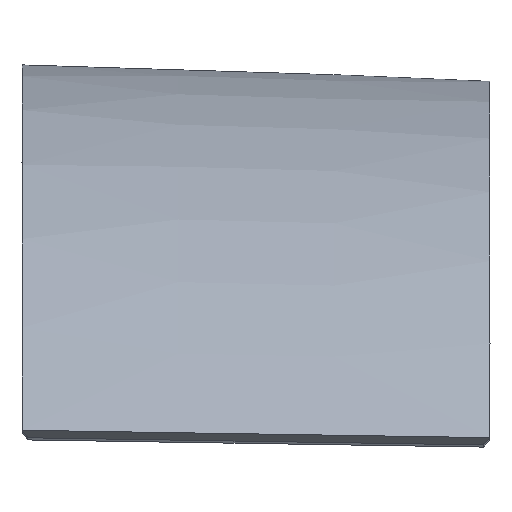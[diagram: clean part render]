
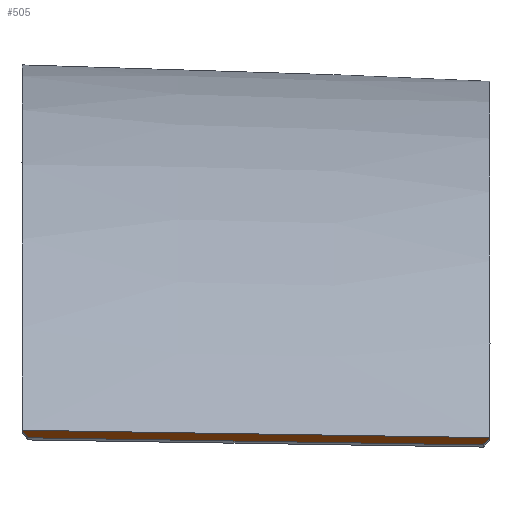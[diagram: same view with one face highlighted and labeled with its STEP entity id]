
A CAD part, top view. The second image highlights one B-rep face of the part: STEP entity #505.
In plain terms, the highlighted free-form (B-spline) face has degree [1, 3] with [2, 4] control points.
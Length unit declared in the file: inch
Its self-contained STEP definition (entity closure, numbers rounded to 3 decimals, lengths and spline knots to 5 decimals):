
#33 = CARTESIAN_POINT ( 'NONE',  ( -23.90625, -101.5709, 31.79514 ) ) ;
#70 = EDGE_CURVE ( 'NONE', #145, #316, #2278, .T. ) ;
#71 = CARTESIAN_POINT ( 'NONE',  ( -0.34176, -101.94102, 31.15406 ) ) ;
#145 = VERTEX_POINT ( 'NONE', #1351 ) ;
#158 = VERTEX_POINT ( 'NONE', #614 ) ;
#168 = CARTESIAN_POINT ( 'NONE',  ( -0.34176, -101.94102, 31.15406 ) ) ;
#171 = CARTESIAN_POINT ( 'NONE',  ( -7.96603, -101.44497, 32.01068 ) ) ;
#176 = CARTESIAN_POINT ( 'NONE',  ( -23.59574, -101.57578, 31.78669 ) ) ;
#182 = CARTESIAN_POINT ( 'NONE',  ( -23.59574, -101.57578, 31.78669 ) ) ;
#246 = EDGE_CURVE ( 'NONE', #1870, #158, #2193, .T. ) ;
#316 = VERTEX_POINT ( 'NONE', #1674 ) ;
#369 = ORIENTED_EDGE ( 'NONE', *, *, #246, .T. ) ;
#381 = CARTESIAN_POINT ( 'NONE',  ( -15.92437, -101.31997, 32.22719 ) ) ;
#414 = CARTESIAN_POINT ( 'NONE',  ( -8.09309, -101.81927, 31.36494 ) ) ;
#448 = FACE_OUTER_BOUND ( 'NONE', #2444, .T. ) ;
#505 = ADVANCED_FACE ( 'NONE', ( #448 ), #1548, .T. ) ;
#518 = B_SPLINE_CURVE_WITH_KNOTS ( 'NONE', 3,
 ( #71, #832, #1775, #1178 ),
 .UNSPECIFIED., .F., .F.,
 ( 4, 4 ),
 ( 0., 1. ),
 .UNSPECIFIED. ) ;
#532 = ORIENTED_EDGE ( 'NONE', *, *, #616, .T. ) ;
#560 = CARTESIAN_POINT ( 'NONE',  ( -23.8827, -101.19498, 32.4437 ) ) ;
#612 = CARTESIAN_POINT ( 'NONE',  ( -7.98958, -101.8209, 31.36212 ) ) ;
#614 = CARTESIAN_POINT ( 'NONE',  ( -0.34176, -101.94102, 31.15406 ) ) ;
#616 = EDGE_CURVE ( 'NONE', #158, #316, #518, .T. ) ;
#726 = CARTESIAN_POINT ( 'NONE',  ( -23.6914, -101.44885, 32.00569 ) ) ;
#802 = CARTESIAN_POINT ( 'NONE',  ( -15.94792, -101.6959, 31.57863 ) ) ;
#832 = CARTESIAN_POINT ( 'NONE',  ( -0.23041, -101.81734, 31.36743 ) ) ;
#906 = CARTESIAN_POINT ( 'NONE',  ( -23.78705, -101.32191, 32.2247 ) ) ;
#1011 = CARTESIAN_POINT ( 'NONE',  ( -23.8827, -101.19498, 32.4437 ) ) ;
#1038 = CARTESIAN_POINT ( 'NONE',  ( -0.0077, -101.56996, 31.79416 ) ) ;
#1178 = CARTESIAN_POINT ( 'NONE',  ( -0.0077, -101.56996, 31.79416 ) ) ;
#1188 = CARTESIAN_POINT ( 'NONE',  ( -7.96603, -101.44497, 32.01068 ) ) ;
#1194 = B_SPLINE_CURVE_WITH_KNOTS ( 'NONE', 3,
 ( #2399, #906, #726, #176 ),
 .UNSPECIFIED., .F., .F.,
 ( 4, 4 ),
 ( 0., 1. ),
 .UNSPECIFIED. ) ;
#1293 = CARTESIAN_POINT ( 'NONE',  ( -23.59574, -101.57578, 31.78669 ) ) ;
#1330 = CARTESIAN_POINT ( 'NONE',  ( -0.0077, -101.56996, 31.79416 ) ) ;
#1351 = CARTESIAN_POINT ( 'NONE',  ( -23.8827, -101.19498, 32.4437 ) ) ;
#1548 = B_SPLINE_SURFACE_WITH_KNOTS ( 'NONE', 1, 3, ( 
 ( #1011, #2134, #1188, #1038 ),
 ( #33, #802, #612, #1958 ) ),
 .UNSPECIFIED., .F., .F., .F.,
 ( 2, 2 ),
 ( 4, 4 ),
 ( 0., 1. ),
 ( -0.30336, 0.30336 ),
 .UNSPECIFIED. ) ;
#1674 = CARTESIAN_POINT ( 'NONE',  ( -0.0077, -101.56996, 31.79416 ) ) ;
#1775 = CARTESIAN_POINT ( 'NONE',  ( -0.11905, -101.69365, 31.5808 ) ) ;
#1835 = ORIENTED_EDGE ( 'NONE', *, *, #1990, .T. ) ;
#1870 = VERTEX_POINT ( 'NONE', #182 ) ;
#1958 = CARTESIAN_POINT ( 'NONE',  ( -0.03125, -101.9459, 31.14562 ) ) ;
#1990 = EDGE_CURVE ( 'NONE', #145, #1870, #1194, .T. ) ;
#2037 = CARTESIAN_POINT ( 'NONE',  ( -15.84441, -101.69753, 31.57582 ) ) ;
#2134 = CARTESIAN_POINT ( 'NONE',  ( -15.92437, -101.31997, 32.22719 ) ) ;
#2193 = B_SPLINE_CURVE_WITH_KNOTS ( 'NONE', 3,
 ( #1293, #2037, #414, #168 ),
 .UNSPECIFIED., .F., .F.,
 ( 4, 4 ),
 ( 0.01301, 0.98699 ),
 .UNSPECIFIED. ) ;
#2268 = ORIENTED_EDGE ( 'NONE', *, *, #70, .F. ) ;
#2278 = B_SPLINE_CURVE_WITH_KNOTS ( 'NONE', 3,
 ( #560, #381, #171, #1330 ),
 .UNSPECIFIED., .F., .F.,
 ( 4, 4 ),
 ( 0., 1. ),
 .UNSPECIFIED. ) ;
#2399 = CARTESIAN_POINT ( 'NONE',  ( -23.8827, -101.19498, 32.4437 ) ) ;
#2444 = EDGE_LOOP ( 'NONE', ( #2268, #1835, #369, #532 ) ) ;
